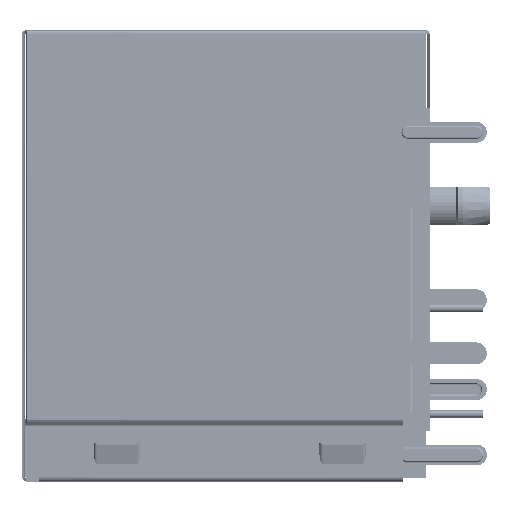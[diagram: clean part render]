
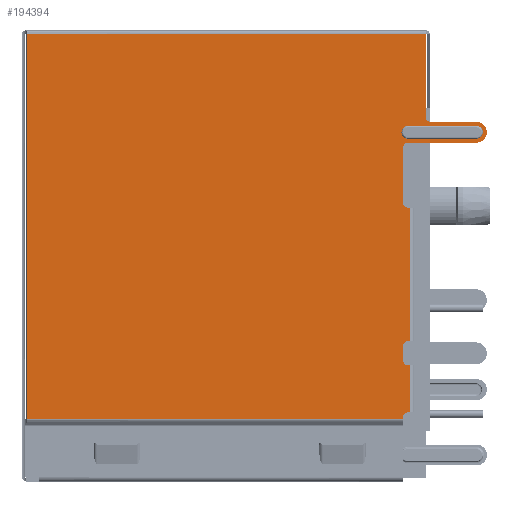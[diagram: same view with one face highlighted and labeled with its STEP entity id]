
A CAD part, left-side view. The second image highlights one B-rep face of the part: STEP entity #194394.
In plain terms, the highlighted planar face has unit normal (-1, 0, 0).
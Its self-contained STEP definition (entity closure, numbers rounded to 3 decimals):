
#167152=CARTESIAN_POINT('',(-57.495,12.3,27.55));
#167154=DIRECTION('',(0.,0.,-1.));
#167155=VECTOR('',#167154,23.899);
#167156=CARTESIAN_POINT('',(-57.495,12.3,27.55));
#167157=LINE('',#167156,#167155);
#167221=DIRECTION('',(0.,1.,0.));
#167222=VECTOR('',#167221,24.75);
#167223=CARTESIAN_POINT('',(-57.495,-12.45,27.55));
#167224=LINE('',#167223,#167222);
#172994=DIRECTION('',(0.,0.,-1.));
#172995=VECTOR('',#172994,5.17);
#172996=CARTESIAN_POINT('',(-57.495,-12.45,27.55));
#172997=LINE('',#172996,#172995);
#172998=CARTESIAN_POINT('',(-57.495,-12.75,22.38));
#172999=DIRECTION('',(-1.,0.,0.));
#173000=DIRECTION('',(0.,1.,0.));
#173001=AXIS2_PLACEMENT_3D('',#172998,#172999,#173000);
#173003=DIRECTION('',(0.,-1.,0.));
#173004=VECTOR('',#173003,2.85);
#173005=CARTESIAN_POINT('',(-57.495,-12.75,22.08));
#173006=LINE('',#173005,#173004);
#173007=CARTESIAN_POINT('',(-57.495,-15.6,21.43));
#173008=DIRECTION('',(1.,0.,0.));
#173009=DIRECTION('',(0.,0.,1.));
#173010=AXIS2_PLACEMENT_3D('',#173007,#173008,#173009);
#173012=DIRECTION('',(0.,1.,0.));
#173013=VECTOR('',#173012,4.25);
#173014=CARTESIAN_POINT('',(-57.495,-15.6,20.78));
#173015=LINE('',#173014,#173013);
#173016=CARTESIAN_POINT('',(-57.495,-11.35,20.48));
#173017=DIRECTION('',(-1.,0.,0.));
#173018=DIRECTION('',(0.,0.,1.));
#173019=AXIS2_PLACEMENT_3D('',#173016,#173017,#173018);
#173021=DIRECTION('',(0.,0.,-1.));
#173022=VECTOR('',#173021,3.43);
#173023=CARTESIAN_POINT('',(-57.495,-11.05,20.48));
#173024=LINE('',#173023,#173022);
#173025=CARTESIAN_POINT('',(-57.495,-11.35,17.05));
#173026=DIRECTION('',(-1.,0.,0.));
#173027=DIRECTION('',(0.,1.,0.));
#173028=AXIS2_PLACEMENT_3D('',#173025,#173026,#173027);
#173030=CARTESIAN_POINT('',(-57.495,-11.35,8.165));
#173031=DIRECTION('',(-1.,0.,0.));
#173032=DIRECTION('',(0.,0.,1.));
#173033=AXIS2_PLACEMENT_3D('',#173030,#173031,#173032);
#173035=DIRECTION('',(0.,0.,-1.));
#173036=VECTOR('',#173035,0.9);
#173037=CARTESIAN_POINT('',(-57.495,-11.05,8.165));
#173038=LINE('',#173037,#173036);
#173039=CARTESIAN_POINT('',(-57.495,-11.35,7.265));
#173040=DIRECTION('',(-1.,0.,0.));
#173041=DIRECTION('',(0.,1.,0.));
#173042=AXIS2_PLACEMENT_3D('',#173039,#173040,#173041);
#173044=CARTESIAN_POINT('',(-57.495,-11.35,3.75));
#173045=DIRECTION('',(-1.,0.,0.));
#173046=DIRECTION('',(0.,0.,1.));
#173047=AXIS2_PLACEMENT_3D('',#173044,#173045,#173046);
#173049=DIRECTION('',(0.,0.,-1.));
#173050=VECTOR('',#173049,0.099);
#173051=CARTESIAN_POINT('',(-57.495,-11.05,3.75));
#173052=LINE('',#173051,#173050);
#173053=CARTESIAN_POINT('',(-57.495,-11.35,21.43));
#173054=DIRECTION('',(-1.,0.,0.));
#173055=DIRECTION('',(0.,0.,1.));
#173056=AXIS2_PLACEMENT_3D('',#173053,#173054,#173055);
#173058=CARTESIAN_POINT('',(-57.495,-15.6,21.43));
#173059=DIRECTION('',(-1.,0.,0.));
#173060=DIRECTION('',(0.,0.,-1.));
#173061=AXIS2_PLACEMENT_3D('',#173058,#173059,#173060);
#173104=DIRECTION('',(0.,1.,0.));
#173105=VECTOR('',#173104,0.1);
#173106=CARTESIAN_POINT('',(-57.495,-11.45,16.75));
#173107=LINE('',#173106,#173105);
#173120=DIRECTION('',(0.,0.,1.));
#173121=VECTOR('',#173120,8.285);
#173122=CARTESIAN_POINT('',(-57.495,-11.45,8.465));
#173123=LINE('',#173122,#173121);
#173132=DIRECTION('',(0.,-1.,0.));
#173133=VECTOR('',#173132,0.1);
#173134=CARTESIAN_POINT('',(-57.495,-11.35,8.465));
#173135=LINE('',#173134,#173133);
#173218=DIRECTION('',(0.,1.,0.));
#173219=VECTOR('',#173218,0.1);
#173220=CARTESIAN_POINT('',(-57.495,-11.45,6.965));
#173221=LINE('',#173220,#173219);
#173226=DIRECTION('',(0.,0.,1.));
#173227=VECTOR('',#173226,2.915);
#173228=CARTESIAN_POINT('',(-57.495,-11.45,4.05));
#173229=LINE('',#173228,#173227);
#173243=DIRECTION('',(0.,-1.,0.));
#173244=VECTOR('',#173243,0.1);
#173245=CARTESIAN_POINT('',(-57.495,-11.35,4.05));
#173246=LINE('',#173245,#173244);
#173315=DIRECTION('',(0.,-1.,0.));
#173316=VECTOR('',#173315,23.35);
#173317=CARTESIAN_POINT('',(-57.495,12.3,3.651));
#173318=LINE('',#173317,#173316);
#173331=DIRECTION('',(0.,-1.,0.));
#173332=VECTOR('',#173331,4.25);
#173333=CARTESIAN_POINT('',(-57.495,-11.35,21.83));
#173334=LINE('',#173333,#173332);
#173369=DIRECTION('',(0.,1.,0.));
#173370=VECTOR('',#173369,4.25);
#173371=CARTESIAN_POINT('',(-57.495,-15.6,21.03));
#173372=LINE('',#173371,#173370);
#183462=VERTEX_POINT('',#167152);
#183463=CARTESIAN_POINT('',(-57.495,12.3,3.651));
#183464=VERTEX_POINT('',#183463);
#183475=CARTESIAN_POINT('',(-57.495,-12.45,27.55));
#183476=VERTEX_POINT('',#183475);
#185387=CARTESIAN_POINT('',(-57.495,-11.05,3.651));
#185388=VERTEX_POINT('',#185387);
#185389=CARTESIAN_POINT('',(-57.495,-11.05,3.75));
#185390=VERTEX_POINT('',#185389);
#185471=CARTESIAN_POINT('',(-57.495,-11.35,4.05));
#185472=VERTEX_POINT('',#185471);
#185473=CARTESIAN_POINT('',(-57.495,-12.45,22.38));
#185474=VERTEX_POINT('',#185473);
#185475=CARTESIAN_POINT('',(-57.495,-12.75,22.08));
#185476=VERTEX_POINT('',#185475);
#185477=CARTESIAN_POINT('',(-57.495,-15.6,22.08));
#185478=VERTEX_POINT('',#185477);
#185479=CARTESIAN_POINT('',(-57.495,-15.6,20.78));
#185480=VERTEX_POINT('',#185479);
#185481=CARTESIAN_POINT('',(-57.495,-11.35,20.78));
#185482=VERTEX_POINT('',#185481);
#185483=CARTESIAN_POINT('',(-57.495,-11.05,20.48));
#185484=VERTEX_POINT('',#185483);
#185485=CARTESIAN_POINT('',(-57.495,-11.05,17.05));
#185486=VERTEX_POINT('',#185485);
#185487=CARTESIAN_POINT('',(-57.495,-11.35,16.75));
#185488=VERTEX_POINT('',#185487);
#185489=CARTESIAN_POINT('',(-57.495,-11.45,16.75));
#185490=VERTEX_POINT('',#185489);
#185491=CARTESIAN_POINT('',(-57.495,-11.45,8.465));
#185492=VERTEX_POINT('',#185491);
#185493=CARTESIAN_POINT('',(-57.495,-11.35,8.465));
#185494=VERTEX_POINT('',#185493);
#185495=CARTESIAN_POINT('',(-57.495,-11.05,8.165));
#185496=VERTEX_POINT('',#185495);
#185497=CARTESIAN_POINT('',(-57.495,-11.05,7.265));
#185498=VERTEX_POINT('',#185497);
#185499=CARTESIAN_POINT('',(-57.495,-11.35,6.965));
#185500=VERTEX_POINT('',#185499);
#185501=CARTESIAN_POINT('',(-57.495,-11.45,6.965));
#185502=VERTEX_POINT('',#185501);
#185503=CARTESIAN_POINT('',(-57.495,-11.45,4.05));
#185504=VERTEX_POINT('',#185503);
#185505=CARTESIAN_POINT('',(-57.495,-11.35,21.83));
#185506=CARTESIAN_POINT('',(-57.495,-15.6,21.83));
#185507=VERTEX_POINT('',#185505);
#185508=VERTEX_POINT('',#185506);
#185509=CARTESIAN_POINT('',(-57.495,-11.35,21.03));
#185510=VERTEX_POINT('',#185509);
#185511=CARTESIAN_POINT('',(-57.495,-15.6,21.03));
#185512=VERTEX_POINT('',#185511);
#194337=CARTESIAN_POINT('',(-57.495,-1.975,15.601));
#194338=DIRECTION('',(1.,0.,0.));
#194339=DIRECTION('',(0.,-1.,0.));
#194340=AXIS2_PLACEMENT_3D('',#194337,#194338,#194339);
#194341=PLANE('',#194340);
#194342=ORIENTED_EDGE('',*,*,#189220,.F.);
#194344=ORIENTED_EDGE('',*,*,#194343,.T.);
#194346=ORIENTED_EDGE('',*,*,#194345,.T.);
#194348=ORIENTED_EDGE('',*,*,#194347,.T.);
#194350=ORIENTED_EDGE('',*,*,#194349,.T.);
#194352=ORIENTED_EDGE('',*,*,#194351,.T.);
#194354=ORIENTED_EDGE('',*,*,#194353,.T.);
#194356=ORIENTED_EDGE('',*,*,#194355,.T.);
#194358=ORIENTED_EDGE('',*,*,#194357,.T.);
#194360=ORIENTED_EDGE('',*,*,#194359,.F.);
#194362=ORIENTED_EDGE('',*,*,#194361,.F.);
#194364=ORIENTED_EDGE('',*,*,#194363,.F.);
#194366=ORIENTED_EDGE('',*,*,#194365,.T.);
#194368=ORIENTED_EDGE('',*,*,#194367,.T.);
#194370=ORIENTED_EDGE('',*,*,#194369,.T.);
#194372=ORIENTED_EDGE('',*,*,#194371,.F.);
#194374=ORIENTED_EDGE('',*,*,#194373,.F.);
#194376=ORIENTED_EDGE('',*,*,#194375,.F.);
#194377=ORIENTED_EDGE('',*,*,#194329,.T.);
#194378=ORIENTED_EDGE('',*,*,#194078,.T.);
#194380=ORIENTED_EDGE('',*,*,#194379,.F.);
#194381=ORIENTED_EDGE('',*,*,#189182,.F.);
#194382=EDGE_LOOP('',(#194342,#194344,#194346,#194348,#194350,#194352,#194354,
#194356,#194358,#194360,#194362,#194364,#194366,#194368,#194370,#194372,#194374,
#194376,#194377,#194378,#194380,#194381));
#194383=FACE_OUTER_BOUND('',#194382,.F.);
#194385=ORIENTED_EDGE('',*,*,#194384,.F.);
#194387=ORIENTED_EDGE('',*,*,#194386,.T.);
#194389=ORIENTED_EDGE('',*,*,#194388,.F.);
#194391=ORIENTED_EDGE('',*,*,#194390,.T.);
#194392=EDGE_LOOP('',(#194385,#194387,#194389,#194391));
#194393=FACE_BOUND('',#194392,.F.);
#194394=ADVANCED_FACE('',(#194383,#194393),#194341,.F.);
#173002=CIRCLE('',#173001,0.3);
#173011=CIRCLE('',#173010,0.65);
#173020=CIRCLE('',#173019,0.3);
#173029=CIRCLE('',#173028,0.3);
#173034=CIRCLE('',#173033,0.3);
#173043=CIRCLE('',#173042,0.3);
#173048=CIRCLE('',#173047,0.3);
#173057=CIRCLE('',#173056,0.4);
#173062=CIRCLE('',#173061,0.4);
#189182=EDGE_CURVE('',#183462,#183464,#167157,.T.);
#189220=EDGE_CURVE('',#183476,#183462,#167224,.T.);
#194078=EDGE_CURVE('',#185390,#185388,#173052,.T.);
#194329=EDGE_CURVE('',#185472,#185390,#173048,.T.);
#194343=EDGE_CURVE('',#183476,#185474,#172997,.T.);
#194345=EDGE_CURVE('',#185474,#185476,#173002,.T.);
#194347=EDGE_CURVE('',#185476,#185478,#173006,.T.);
#194349=EDGE_CURVE('',#185478,#185480,#173011,.T.);
#194351=EDGE_CURVE('',#185480,#185482,#173015,.T.);
#194353=EDGE_CURVE('',#185482,#185484,#173020,.T.);
#194355=EDGE_CURVE('',#185484,#185486,#173024,.T.);
#194357=EDGE_CURVE('',#185486,#185488,#173029,.T.);
#194359=EDGE_CURVE('',#185490,#185488,#173107,.T.);
#194361=EDGE_CURVE('',#185492,#185490,#173123,.T.);
#194363=EDGE_CURVE('',#185494,#185492,#173135,.T.);
#194365=EDGE_CURVE('',#185494,#185496,#173034,.T.);
#194367=EDGE_CURVE('',#185496,#185498,#173038,.T.);
#194369=EDGE_CURVE('',#185498,#185500,#173043,.T.);
#194371=EDGE_CURVE('',#185502,#185500,#173221,.T.);
#194373=EDGE_CURVE('',#185504,#185502,#173229,.T.);
#194375=EDGE_CURVE('',#185472,#185504,#173246,.T.);
#194379=EDGE_CURVE('',#183464,#185388,#173318,.T.);
#194384=EDGE_CURVE('',#185507,#185508,#173334,.T.);
#194386=EDGE_CURVE('',#185507,#185510,#173057,.T.);
#194388=EDGE_CURVE('',#185512,#185510,#173372,.T.);
#194390=EDGE_CURVE('',#185512,#185508,#173062,.T.);
